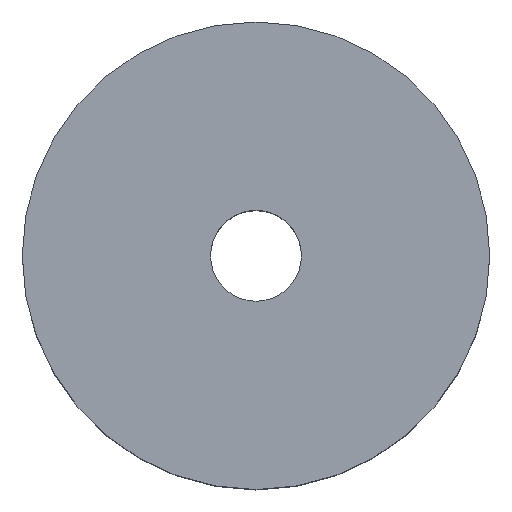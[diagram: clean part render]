
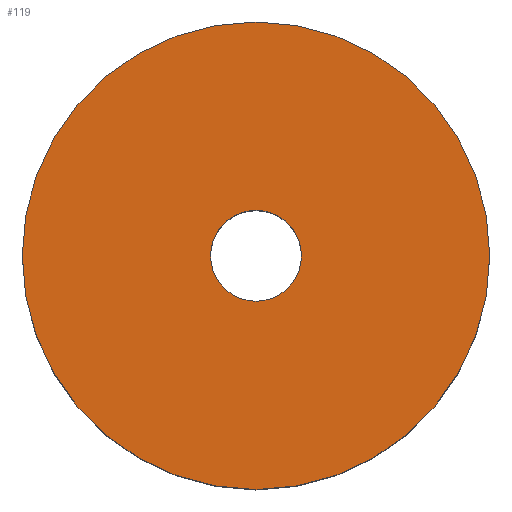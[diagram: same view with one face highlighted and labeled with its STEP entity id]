
A CAD part, top view. The second image highlights one B-rep face of the part: STEP entity #119.
In plain terms, the highlighted planar face has unit normal (0, 0, 1).
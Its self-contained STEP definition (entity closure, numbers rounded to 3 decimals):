
#16=FACE_BOUND('',#39,.T.);
#18=PLANE('',#148);
#29=FACE_OUTER_BOUND('',#38,.T.);
#38=EDGE_LOOP('',(#105));
#39=EDGE_LOOP('',(#106));
#59=CIRCLE('',#147,9.);
#60=CIRCLE('',#149,1.75);
#67=VERTEX_POINT('',#214);
#68=VERTEX_POINT('',#218);
#79=EDGE_CURVE('',#67,#67,#59,.T.);
#81=EDGE_CURVE('',#68,#68,#60,.T.);
#105=ORIENTED_EDGE('',*,*,#79,.T.);
#106=ORIENTED_EDGE('',*,*,#81,.T.);
#119=ADVANCED_FACE('',(#29,#16),#18,.T.);
#147=AXIS2_PLACEMENT_3D('',#215,#181,#182);
#148=AXIS2_PLACEMENT_3D('',#217,#184,#185);
#149=AXIS2_PLACEMENT_3D('',#219,#186,#187);
#181=DIRECTION('center_axis',(0.,0.,1.));
#182=DIRECTION('ref_axis',(1.,0.,0.));
#184=DIRECTION('center_axis',(0.,0.,1.));
#185=DIRECTION('ref_axis',(1.,0.,0.));
#186=DIRECTION('center_axis',(0.,0.,-1.));
#187=DIRECTION('ref_axis',(1.,0.,0.));
#214=CARTESIAN_POINT('',(-9.,0.,5.));
#215=CARTESIAN_POINT('Origin',(0.,0.,5.));
#217=CARTESIAN_POINT('Origin',(0.,0.,5.));
#218=CARTESIAN_POINT('',(-1.75,0.,5.));
#219=CARTESIAN_POINT('Origin',(0.,0.,5.));
